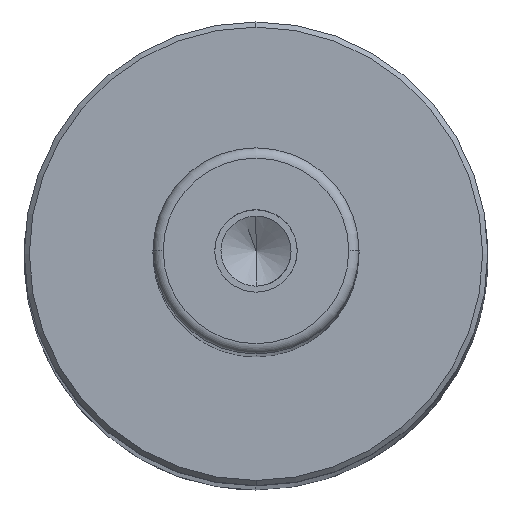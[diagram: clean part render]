
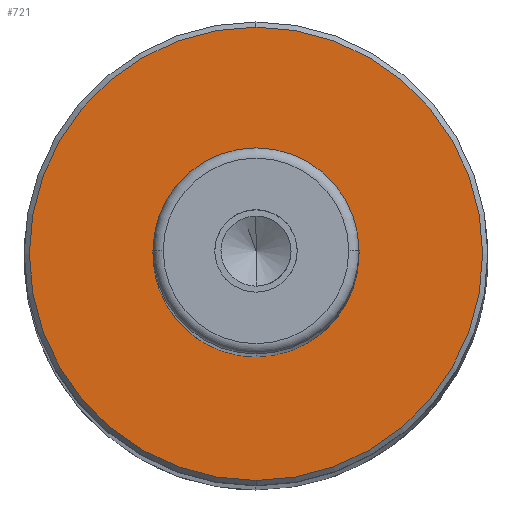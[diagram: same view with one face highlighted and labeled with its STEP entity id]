
A CAD part, top view. The second image highlights one B-rep face of the part: STEP entity #721.
In plain terms, the highlighted planar face has unit normal (0, 0, 1).
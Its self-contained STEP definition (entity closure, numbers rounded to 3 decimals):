
#400=CARTESIAN_POINT('Vertex',(0.,22.,243.)) ;
#407=CARTESIAN_POINT('Vertex',(0.,-22.,243.)) ;
#410=CARTESIAN_POINT('Axis2P3D Location',(0.,0.,243.)) ;
#427=CARTESIAN_POINT('Axis2P3D Location',(0.,0.,243.)) ;
#652=CARTESIAN_POINT('Axis2P3D Location',(0.,16.,243.)) ;
#662=CARTESIAN_POINT('Control Point',(0.,10.,243.)) ;
#663=CARTESIAN_POINT('Control Point',(-0.93,10.,243.)) ;
#664=CARTESIAN_POINT('Control Point',(-1.859,9.892,243.)) ;
#665=CARTESIAN_POINT('Control Point',(-2.772,9.676,243.)) ;
#666=CARTESIAN_POINT('Control Point',(-4.53,9.036,243.)) ;
#667=CARTESIAN_POINT('Control Point',(-6.095,8.01,243.)) ;
#668=CARTESIAN_POINT('Control Point',(-6.815,7.407,243.)) ;
#669=CARTESIAN_POINT('Control Point',(-8.1,6.047,243.)) ;
#670=CARTESIAN_POINT('Control Point',(-9.039,4.428,243.)) ;
#671=CARTESIAN_POINT('Control Point',(-9.412,3.567,243.)) ;
#672=CARTESIAN_POINT('Control Point',(-9.951,1.775,243.)) ;
#673=CARTESIAN_POINT('Control Point',(-10.065,-0.093,243.)) ;
#674=CARTESIAN_POINT('Control Point',(-10.012,-1.03,243.)) ;
#675=CARTESIAN_POINT('Control Point',(-9.691,-2.873,243.)) ;
#676=CARTESIAN_POINT('Control Point',(-8.955,-4.594,243.)) ;
#677=CARTESIAN_POINT('Control Point',(-8.489,-5.408,243.)) ;
#678=CARTESIAN_POINT('Control Point',(-7.375,-6.912,243.)) ;
#679=CARTESIAN_POINT('Control Point',(-5.946,-8.121,243.)) ;
#680=CARTESIAN_POINT('Control Point',(-5.165,-8.639,243.)) ;
#681=CARTESIAN_POINT('Control Point',(-3.696,-9.383,243.)) ;
#682=CARTESIAN_POINT('Control Point',(-2.111,-9.813,243.)) ;
#683=CARTESIAN_POINT('Control Point',(-1.412,-9.938,243.)) ;
#684=CARTESIAN_POINT('Control Point',(-0.706,-10.,243.)) ;
#685=CARTESIAN_POINT('Control Point',(0.,-10.,243.)) ;
#686=CARTESIAN_POINT('Vertex',(0.,10.,243.)) ;
#688=CARTESIAN_POINT('Vertex',(0.,-10.,243.)) ;
#692=CARTESIAN_POINT('Control Point',(0.,-10.,243.)) ;
#693=CARTESIAN_POINT('Control Point',(0.93,-10.,243.)) ;
#694=CARTESIAN_POINT('Control Point',(1.859,-9.892,243.)) ;
#695=CARTESIAN_POINT('Control Point',(2.772,-9.676,243.)) ;
#696=CARTESIAN_POINT('Control Point',(4.53,-9.036,243.)) ;
#697=CARTESIAN_POINT('Control Point',(6.095,-8.01,243.)) ;
#698=CARTESIAN_POINT('Control Point',(6.815,-7.407,243.)) ;
#699=CARTESIAN_POINT('Control Point',(8.1,-6.047,243.)) ;
#700=CARTESIAN_POINT('Control Point',(9.039,-4.428,243.)) ;
#701=CARTESIAN_POINT('Control Point',(9.412,-3.567,243.)) ;
#702=CARTESIAN_POINT('Control Point',(9.951,-1.775,243.)) ;
#703=CARTESIAN_POINT('Control Point',(10.065,0.093,243.)) ;
#704=CARTESIAN_POINT('Control Point',(10.012,1.03,243.)) ;
#705=CARTESIAN_POINT('Control Point',(9.691,2.873,243.)) ;
#706=CARTESIAN_POINT('Control Point',(8.955,4.594,243.)) ;
#707=CARTESIAN_POINT('Control Point',(8.489,5.408,243.)) ;
#708=CARTESIAN_POINT('Control Point',(7.375,6.912,243.)) ;
#709=CARTESIAN_POINT('Control Point',(5.946,8.121,243.)) ;
#710=CARTESIAN_POINT('Control Point',(5.165,8.639,243.)) ;
#711=CARTESIAN_POINT('Control Point',(3.696,9.383,243.)) ;
#712=CARTESIAN_POINT('Control Point',(2.111,9.813,243.)) ;
#713=CARTESIAN_POINT('Control Point',(1.412,9.938,243.)) ;
#714=CARTESIAN_POINT('Control Point',(0.706,10.,243.)) ;
#715=CARTESIAN_POINT('Control Point',(0.,10.,243.)) ;
#411=DIRECTION('Axis2P3D Direction',(0.,0.,-1.)) ;
#428=DIRECTION('Axis2P3D Direction',(0.,0.,-1.)) ;
#653=DIRECTION('Axis2P3D Direction',(0.,0.,1.)) ;
#654=DIRECTION('Axis2P3D XDirection',(0.,1.,0.)) ;
#412=AXIS2_PLACEMENT_3D('Circle Axis2P3D',#410,#411,$) ;
#429=AXIS2_PLACEMENT_3D('Circle Axis2P3D',#427,#428,$) ;
#655=AXIS2_PLACEMENT_3D('Plane Axis2P3D',#652,#653,#654) ;
#658=ORIENTED_EDGE('',*,*,#414,.T.) ;
#659=ORIENTED_EDGE('',*,*,#431,.T.) ;
#718=ORIENTED_EDGE('',*,*,#690,.F.) ;
#719=ORIENTED_EDGE('',*,*,#716,.F.) ;
#720=FACE_BOUND('',#717,.T.) ;
#721=ADVANCED_FACE('',(#660,#720),#656,.T.) ;
#661=B_SPLINE_CURVE_WITH_KNOTS('',5,(#662,#663,#664,#665,#666,#667,#668,#669,#670,#671,#672,#673,#674,#675,#676,#677,#678,#679,#680,#681,#682,#683,#684,#685),.UNSPECIFIED.,.F.,.U.,(6,3,3,3,3,3,3,6),(0.,6.573,13.145,19.718,26.29,32.863,39.436,44.428),.UNSPECIFIED.) ;
#691=B_SPLINE_CURVE_WITH_KNOTS('',5,(#692,#693,#694,#695,#696,#697,#698,#699,#700,#701,#702,#703,#704,#705,#706,#707,#708,#709,#710,#711,#712,#713,#714,#715),.UNSPECIFIED.,.F.,.U.,(6,3,3,3,3,3,3,6),(0.,6.573,13.145,19.718,26.29,32.863,39.436,44.428),.UNSPECIFIED.) ;
#413=CIRCLE('generated circle',#412,22.) ;
#430=CIRCLE('generated circle',#429,22.) ;
#414=EDGE_CURVE('',#401,#408,#413,.F.) ;
#431=EDGE_CURVE('',#408,#401,#430,.F.) ;
#690=EDGE_CURVE('',#687,#689,#661,.T.) ;
#716=EDGE_CURVE('',#689,#687,#691,.T.) ;
#657=EDGE_LOOP('',(#658,#659)) ;
#717=EDGE_LOOP('',(#718,#719)) ;
#660=FACE_OUTER_BOUND('',#657,.T.) ;
#656=PLANE('Plane',#655) ;
#401=VERTEX_POINT('',#400) ;
#408=VERTEX_POINT('',#407) ;
#687=VERTEX_POINT('',#686) ;
#689=VERTEX_POINT('',#688) ;
